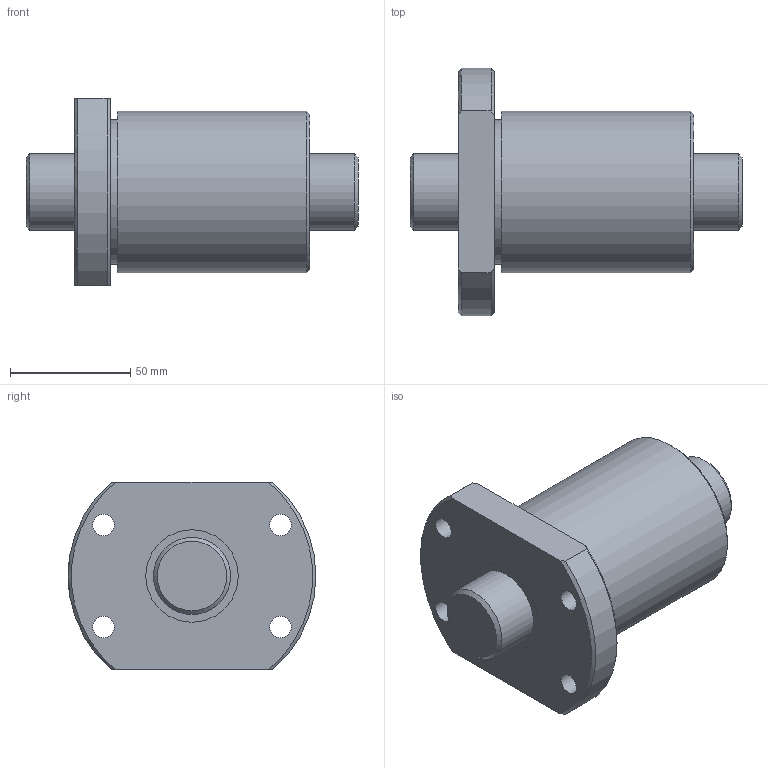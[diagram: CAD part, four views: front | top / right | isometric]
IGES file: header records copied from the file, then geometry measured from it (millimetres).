
Start section: Data from Parasolid IGES Translator 26.0.171, Copyright(c) 2006 Siemens PLM Software. All Rights Reserved.
Global section: file name: BTK3210V-5.3ZZ+138LC7T_000.igs; native system: By Siemens PLM Incorporated; preprocessor: XPlus GENERIC/IGES 26.0.171; author: Noname; organization: Noname; date: 20250116.075805; units: millimetre
Bounding box: 138 x 103 x 78 mm (x, y, z)
Surface area: 62564.1 mm2 (no closed solid volume)
Topology: 0 solids, 0 shells, 31 faces, 136 edges, 117 vertices
Faces by surface type: revolution 21, extrusion 10
